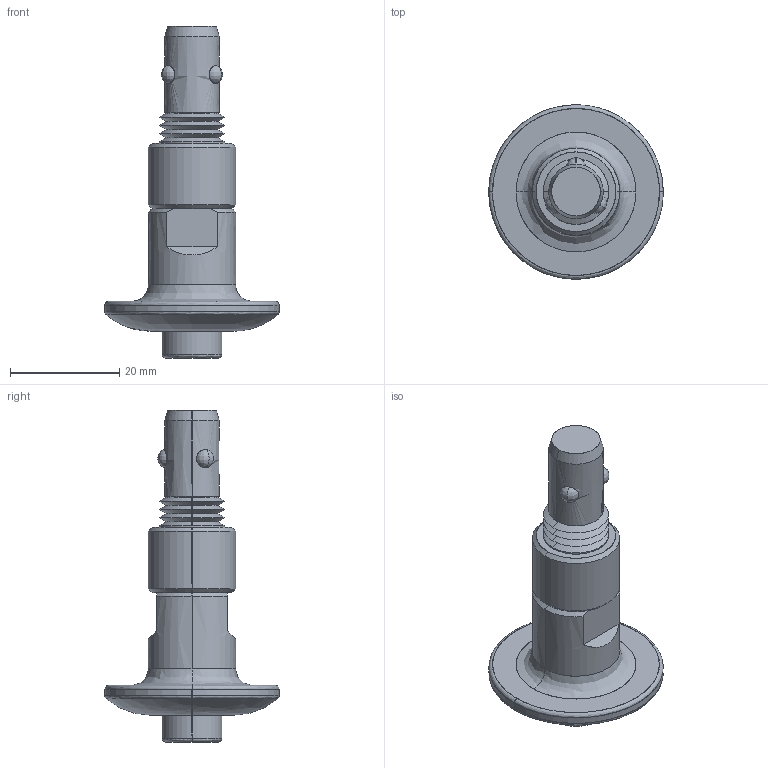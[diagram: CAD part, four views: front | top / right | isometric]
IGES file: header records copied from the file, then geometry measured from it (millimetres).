
Start section: SolidWorks IGES file using analytic representation for surfaces
Global section: file name: C:\Users\IanO\Documents\Temp File\GENERAL\33912_v2\33912_v2_20191028_IGES\33912.W1610.igs; native system: SolidWorks 2017; preprocessor: SolidWorks 2017; author: IanO; date: 191028.112311; units: millimetre
Bounding box: 32 x 32 x 60.9 mm (x, y, z)
Surface area: 4268.1 mm2 (no closed solid volume)
Topology: 0 solids, 0 shells, 64 faces, 738 edges, 738 vertices
Faces by surface type: revolution 43, bspline 21
